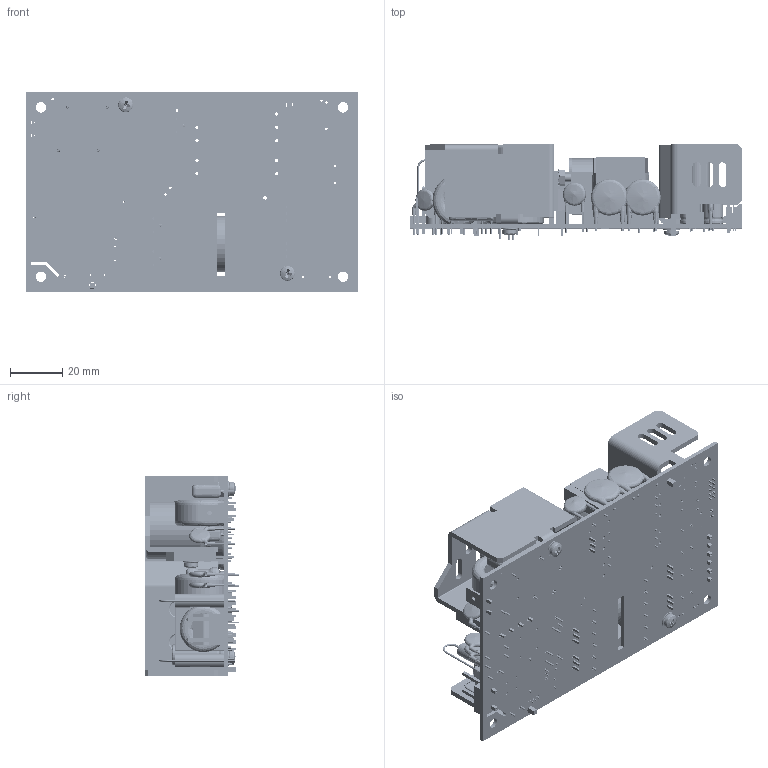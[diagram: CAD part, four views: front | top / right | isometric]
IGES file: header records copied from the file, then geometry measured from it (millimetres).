
Start section: SolidWorks IGES file using analytic representation for surfaces
Global section: file name: G:\USER\Common for ENG DEPT\TO Jayesh Patel\GCS180 solidworks\GCS180PSXX.IGS; native system: SolidWorks 2012; preprocessor: SolidWorks 2012; author: KEVYOU; date: 130711.145121; units: inch
Bounding box: 127 x 36.34 x 76.21 mm (x, y, z)
Surface area: 83345.3 mm2 (no closed solid volume)
Topology: 0 solids, 0 shells, 3324 faces, 33006 edges, 32930 vertices
Faces by surface type: bspline 2083, revolution 1241
